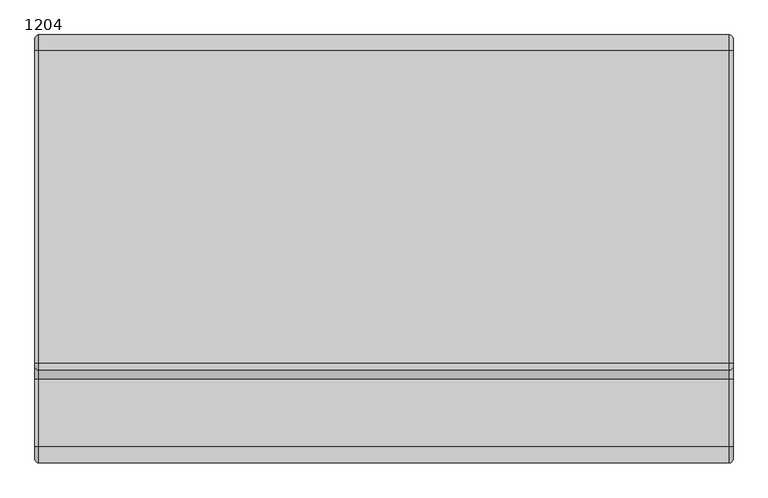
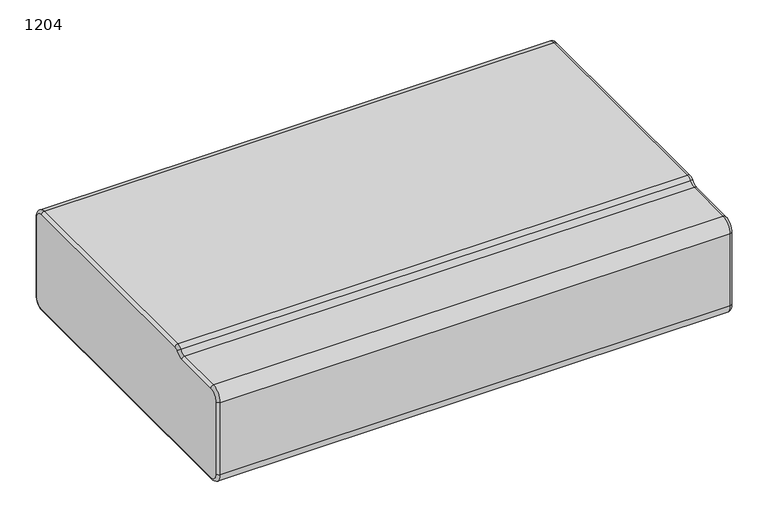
"""IFC4 building model written with IfcOpenShell, lengths in millimetres: furniture geometry, Laguna-Modular-Straight-ERG : 1204."""

from ifc_helpers import new_model, si_unit, point, frame, origin, place, context, project, spatial, polyline, circle_curve, ellipse_curve, trimmed, source, transform, mapped, element, save
from ifc_brep_helpers import plane_surface, cylinder_surface, revolved_surface, advanced_brep


def furniture_1204_49065b5f(model_context):
    return source(origin(), model_context, "Body", "AdvancedBrep", [
        advanced_brep(
        [(-3545.1421763, -1208.7558502, 209.55), (-3545.1421763, -573.755851, 209.55), (-3545.1421763, -554.7058502, 228.6), (-3545.1421763, -554.7058502, 406.4), (-3545.1421763, -573.7558502, 425.45), (-3545.1421763, -1074.6905694, 425.45), (-3545.1421763, -1081.0629451, 422.2976649), (-3545.1421763, -1100.3633388, 412.75), (-3545.1421763, -1208.7558502, 412.75), (-3545.1421763, -1227.8058502, 393.7), (-3545.1421763, -1227.8058502, 228.6), (-4662.7421763, -573.7558502, 209.55), (-4662.7421763, -1208.7558502, 209.55), (-4662.7421763, -1227.8058502, 228.6), (-4662.7421763, -1227.8058502, 393.7), (-4662.7421763, -1208.7558502, 412.75), (-4662.7421763, -1100.3633388, 412.75), (-4662.7421763, -1081.0629451, 422.2976649), (-4662.7421763, -1074.6905694, 425.45), (-4662.7421763, -573.7558502, 425.45), (-4662.7421763, -554.7058502, 406.4), (-4662.7421763, -554.7058502, 228.6), (-3551.4921763, -1234.1558502, 228.6), (-3551.4921763, -1208.7558502, 203.2), (-3551.4921763, -1234.1558502, 393.7), (-3551.4921763, -1208.7558502, 419.1), (-3551.4921763, -1100.3633388, 419.1), (-3551.4921763, -1086.1103079, 426.1507973), (-3551.4921763, -1074.6905694, 431.8), (-3551.4921763, -573.7558502, 431.8), (-3551.4921763, -548.3558502, 406.4), (-3551.4921763, -548.3558502, 228.6), (-3551.4921763, -573.7558502, 203.2), (-4656.3921763, -1208.7558502, 203.2), (-4656.3921763, -573.7558554, 203.2), (-4656.3921763, -1234.1558502, 228.6), (-4656.3921763, -1234.1558502, 393.7), (-4656.3921763, -1208.7558502, 419.1), (-4656.3921763, -1100.3633388, 419.1), (-4656.3921763, -1086.1103079, 426.1507973), (-4656.3921763, -1074.6905694, 431.8), (-4656.3921763, -573.7558502, 431.8), (-4656.3921763, -548.3558502, 406.4), (-4656.3921763, -548.3558502, 228.6)],
        [
            (0, 1),
            (1, 2, circle_curve(frame((-3545.1421763, -573.7558502, 228.6), z_axis=(1.0, 0.0, 0.0), x_axis=(0.0, 1.0, 0.0)), 19.05)),
            (2, 3),
            (3, 4, circle_curve(frame((-3545.1421763, -573.7558502, 406.4), z_axis=(1.0, 0.0, 0.0), x_axis=(0.0, 0.0, 1.0)), 19.05)),
            (4, 5),
            (5, 6, circle_curve(frame((-3545.1421763, -1074.6905694, 417.4330241), z_axis=(1.0, 0.0, 0.0), x_axis=(0.0, -0.7948602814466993, 0.6067924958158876)), 8.0169759)),
            (6, 7, circle_curve(frame((-3545.1421763, -1100.3633388, 437.0314921), z_axis=(-1.0, 0.0, 0.0), x_axis=(0.0, 0.0, -1.0)), 24.2814921)),
            (7, 8),
            (8, 9, circle_curve(frame((-3545.1421763, -1208.7558502, 393.7), z_axis=(1.0, 0.0, 0.0), x_axis=(0.0, -1.0, 0.0)), 19.05)),
            (9, 10),
            (10, 0, circle_curve(frame((-3545.1421763, -1208.7558502, 228.6), z_axis=(1.0, 0.0, 0.0), x_axis=(0.0, 0.0, -1.0)), 19.05)),
            (11, 12),
            (12, 13, circle_curve(frame((-4662.7421763, -1208.7558502, 228.6), z_axis=(-1.0, 0.0, 0.0), x_axis=(0.0, 0.0, -1.0)), 19.05)),
            (13, 14),
            (14, 15, circle_curve(frame((-4662.7421763, -1208.7558502, 393.7), z_axis=(-1.0, 0.0, 0.0), x_axis=(0.0, -1.0, 0.0)), 19.05)),
            (15, 16),
            (16, 17, circle_curve(frame((-4662.7421763, -1100.3633388, 437.0314921), z_axis=(1.0, 0.0, 0.0), x_axis=(0.0, 0.0, -1.0)), 24.2814921)),
            (17, 18, circle_curve(frame((-4662.7421763, -1074.6905694, 417.4330241), z_axis=(-1.0, 0.0, 0.0), x_axis=(0.0, -0.7948602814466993, 0.6067924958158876)), 8.0169759)),
            (18, 19),
            (19, 20, circle_curve(frame((-4662.7421763, -573.7558502, 406.4), z_axis=(-1.0, 0.0, 0.0), x_axis=(0.0, 0.0, 1.0)), 19.05)),
            (20, 21),
            (21, 11, circle_curve(frame((-4662.7421763, -573.7558502, 228.6), z_axis=(-1.0, 0.0, 0.0), x_axis=(0.0, 1.0, 0.0)), 19.05)),
            (10, 22, circle_curve(frame((-3551.4921763, -1227.8058502, 228.6), z_axis=(0.0, 0.0, -1.0), x_axis=(0.0, 1.0, 0.0)), 6.35)),
            (22, 23, circle_curve(frame((-3551.4921763, -1208.7558502, 228.6), z_axis=(1.0, 0.0, 0.0), x_axis=(0.0, 0.0, -1.0)), 25.4)),
            (23, 0, circle_curve(frame((-3551.4921763, -1208.7558502, 209.55), z_axis=(0.0, -1.0, 0.0), x_axis=(0.0, 0.0, 1.0)), 6.35)),
            (9, 24, circle_curve(frame((-3551.4921763, -1227.8058502, 393.7), z_axis=(0.0, 0.0, -1.0), x_axis=(0.0, 1.0, 0.0)), 6.35)),
            (24, 22),
            (8, 25, circle_curve(frame((-3551.4921763, -1208.7558502, 412.75), z_axis=(0.0, -1.0, 0.0), x_axis=(0.0, 0.0, -1.0)), 6.35)),
            (25, 24, circle_curve(frame((-3551.4921763, -1208.7558502, 393.7), z_axis=(1.0, 0.0, 0.0), x_axis=(0.0, -1.0, 0.0)), 25.4)),
            (7, 26, circle_curve(frame((-3551.4921763, -1100.3633388, 412.75), z_axis=(0.0, -1.0, 0.0), x_axis=(0.0, 0.0, -1.0)), 6.35)),
            (26, 25),
            (6, 27, circle_curve(frame((-3551.4921763, -1081.0629451, 422.2976649), z_axis=(0.0, -0.6067924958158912, -0.7948602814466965), x_axis=(0.0, 0.7948602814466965, -0.6067924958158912)), 6.35)),
            (27, 26, circle_curve(frame((-3551.4921763, -1100.3633388, 437.0314921), z_axis=(-1.0, 0.0, 0.0), x_axis=(0.0, 0.0, -1.0)), 17.9314921)),
            (5, 28, circle_curve(frame((-3551.4921763, -1074.6905694, 425.45), z_axis=(0.0, -1.0, 0.0), x_axis=(0.0, 0.0, -1.0)), 6.35)),
            (28, 27, circle_curve(frame((-3551.4921763, -1074.6905694, 417.4330241), z_axis=(1.0, 0.0, 0.0), x_axis=(0.0, -0.7948602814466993, 0.6067924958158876)), 14.3669759)),
            (4, 29, circle_curve(frame((-3551.4921763, -573.7558502, 425.45), z_axis=(0.0, -1.0, 0.0), x_axis=(0.0, 0.0, -1.0)), 6.35)),
            (29, 28),
            (3, 30, circle_curve(frame((-3551.4921763, -554.7058502, 406.4), z_axis=(0.0, 0.0, 1.0), x_axis=(0.0, -1.0, 0.0)), 6.35)),
            (30, 29, circle_curve(frame((-3551.4921763, -573.7558502, 406.4), z_axis=(1.0, 0.0, 0.0), x_axis=(0.0, 0.0, 1.0)), 25.4)),
            (2, 31, circle_curve(frame((-3551.4921763, -554.7058502, 228.6), z_axis=(0.0, 0.0, 1.0), x_axis=(0.0, -1.0, 0.0)), 6.35)),
            (31, 30),
            (1, 32, circle_curve(frame((-3551.4921763, -573.7558502, 209.55), z_axis=(0.0, 1.0, 0.0), x_axis=(0.0, 0.0, 1.0)), 6.35)),
            (32, 31, circle_curve(frame((-3551.4921763, -573.7558502, 228.6), z_axis=(1.0, 0.0, 0.0), x_axis=(0.0, 1.0, 0.0)), 25.4)),
            (23, 32),
            (23, 33),
            (33, 34),
            (34, 32),
            (22, 35),
            (35, 33, circle_curve(frame((-4656.3921763, -1208.7558502, 228.6), z_axis=(1.0, 0.0, 0.0), x_axis=(0.0, -1.0, 0.0)), 25.4)),
            (24, 36),
            (36, 35),
            (25, 37),
            (37, 36, circle_curve(frame((-4656.3921763, -1208.7558502, 393.7), z_axis=(1.0, 0.0, 0.0), x_axis=(0.0, -1.0, 0.0)), 25.4)),
            (26, 38),
            (38, 37),
            (27, 39),
            (39, 38, circle_curve(frame((-4656.3921763, -1100.3633388, 437.0314921), z_axis=(-1.0, 0.0, 0.0), x_axis=(0.0, -1.0, 0.0)), 17.9314921)),
            (28, 40),
            (40, 39, circle_curve(frame((-4656.3921763, -1074.6905694, 417.4330241), z_axis=(1.0, 0.0, 0.0), x_axis=(0.0, -1.0, 0.0)), 14.3669759)),
            (29, 41),
            (41, 40),
            (30, 42),
            (42, 41, circle_curve(frame((-4656.3921763, -573.7558502, 406.4), z_axis=(1.0, 0.0, 0.0), x_axis=(0.0, -1.0, 0.0)), 25.4)),
            (31, 43),
            (43, 42),
            (34, 43, circle_curve(frame((-4656.3921763, -573.7558502, 228.6), z_axis=(1.0, 0.0, 0.0), x_axis=(0.0, -1.0, 0.0)), 25.4)),
            (34, 11, circle_curve(frame((-4656.3921763, -573.7558502, 209.55), z_axis=(0.0, 1.0, 0.0), x_axis=(1.0, 0.0, 0.0)), 6.35)),
            (21, 43, circle_curve(frame((-4656.3921763, -554.7058502, 228.6), z_axis=(0.0, 0.0, -1.0), x_axis=(1.0, 0.0, 0.0)), 6.35)),
            (33, 12, circle_curve(frame((-4656.3921763, -1208.7558502, 209.55), z_axis=(0.0, 1.0, 0.0), x_axis=(1.0, 0.0, 0.0)), 6.35)),
            (35, 13, circle_curve(frame((-4656.3921763, -1227.8058502, 228.6), z_axis=(0.0, 0.0, -1.0), x_axis=(1.0, 0.0, 0.0)), 6.35)),
            (36, 14, circle_curve(frame((-4656.3921763, -1227.8058502, 393.7), z_axis=(0.0, 0.0, -1.0), x_axis=(1.0, 0.0, 0.0)), 6.35)),
            (37, 15, circle_curve(frame((-4656.3921763, -1208.7558502, 412.75), z_axis=(0.0, -1.0, 0.0), x_axis=(1.0, 0.0, 0.0)), 6.35)),
            (38, 16, circle_curve(frame((-4656.3921763, -1100.3633388, 412.75), z_axis=(0.0, -1.0, 0.0), x_axis=(1.0, 0.0, 0.0)), 6.35)),
            (39, 17, circle_curve(frame((-4656.3921763, -1081.0629451, 422.2976649), z_axis=(0.0, -0.6067924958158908, -0.7948602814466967), x_axis=(1.0, 0.0, 0.0)), 6.35)),
            (40, 18, circle_curve(frame((-4656.3921763, -1074.6905694, 425.45), z_axis=(0.0, -1.0, 0.0), x_axis=(1.0, 0.0, 0.0)), 6.35)),
            (41, 19, circle_curve(frame((-4656.3921763, -573.7558502, 425.45), z_axis=(0.0, -1.0, 0.0), x_axis=(1.0, 0.0, 0.0)), 6.35)),
            (42, 20, circle_curve(frame((-4656.3921763, -554.7058502, 406.4), z_axis=(0.0, 0.0, 1.0), x_axis=(1.0, 0.0, 0.0)), 6.35)),
        ],
        [
            plane_surface(frame((-3545.1421763, -1208.7558502, 209.55), z_axis=(1.0, 0.0, 0.0), x_axis=(0.0, -1.0, 0.0))),
            plane_surface(frame((-4662.7421763, -587.7103097, 425.45), z_axis=(-1.0, 0.0, 0.0), x_axis=(0.0, -1.0, 0.0))),
            revolved_surface(trimmed(ellipse_curve(frame((-3551.4921763, -1208.7558502, 209.55), z_axis=(0.0, -1.0, 0.0), x_axis=(0.0, 0.0, 1.0)), 6.35, 6.35), [point((-3551.4921763, -1208.7558502, 203.2))], [point((-3545.1421763, -1208.7558502, 209.55))], True, "CARTESIAN"), (-3551.4921763, -1208.7558502, 228.6), (1.0, 0.0, 0.0)),
            cylinder_surface(frame((-3551.4921763, -1227.8058502, 228.6), z_axis=(0.0, 0.0, -1.0), x_axis=(0.0, 1.0, 0.0)), 6.35),
            revolved_surface(trimmed(ellipse_curve(frame((-3551.4921763, -1227.8058502, 393.7), z_axis=(0.0, 0.0, 1.0), x_axis=(0.0, 1.0, 0.0)), 6.35, 6.35), [point((-3551.4921763, -1234.1558502, 393.7))], [point((-3545.1421763, -1227.8058502, 393.7))], True, "CARTESIAN"), (-3551.4921763, -1208.7558502, 393.7), (1.0, 0.0, 0.0)),
            cylinder_surface(frame((-3551.4921763, -1208.7558502, 412.75), z_axis=(0.0, -1.0, 0.0), x_axis=(0.0, 0.0, -1.0)), 6.35),
            revolved_surface(trimmed(ellipse_curve(frame((-3551.4921763, -1100.3633388, 412.75), z_axis=(0.0, 1.0, 0.0), x_axis=(0.0, 0.0, -1.0)), 6.35, 6.35), [point((-3551.4921763, -1100.3633388, 419.1))], [point((-3545.1421763, -1100.3633388, 412.75))], True, "CARTESIAN"), (-3551.4921763, -1100.3633388, 437.0314921), (-1.0, 0.0, 0.0)),
            revolved_surface(trimmed(ellipse_curve(frame((-3551.4921763, -1081.0629451, 422.2976649), z_axis=(0.0, 0.6067924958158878, 0.7948602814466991), x_axis=(0.0, 0.7948602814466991, -0.6067924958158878)), 6.35, 6.35), [point((-3551.4921763, -1086.1103079, 426.1507973))], [point((-3545.1421763, -1081.0629451, 422.2976649))], True, "CARTESIAN"), (-3551.4921763, -1074.6905694, 417.4330241), (1.0, 0.0, 0.0)),
            cylinder_surface(frame((-3551.4921763, -1074.6905694, 425.45), z_axis=(0.0, -1.0, 0.0), x_axis=(0.0, 0.0, -1.0)), 6.35),
            revolved_surface(trimmed(ellipse_curve(frame((-3551.4921763, -573.7558502, 425.45), z_axis=(0.0, 1.0, 0.0), x_axis=(0.0, 0.0, -1.0)), 6.35, 6.35), [point((-3551.4921763, -573.7558502, 431.8))], [point((-3545.1421763, -573.7558502, 425.45))], True, "CARTESIAN"), (-3551.4921763, -573.7558502, 406.4), (1.0, 0.0, 0.0)),
            cylinder_surface(frame((-3551.4921763, -554.7058502, 406.4), z_axis=(0.0, 0.0, 1.0), x_axis=(0.0, -1.0, 0.0)), 6.35),
            revolved_surface(trimmed(ellipse_curve(frame((-3551.4921763, -554.7058502, 228.6), z_axis=(0.0, 0.0, -1.0), x_axis=(0.0, -1.0, 0.0)), 6.35, 6.35), [point((-3551.4921763, -548.3558502, 228.6))], [point((-3545.1421763, -554.7058502, 228.6))], True, "CARTESIAN"), (-3551.4921763, -573.7558502, 228.6), (1.0, 0.0, 0.0)),
            cylinder_surface(frame((-3551.4921763, -573.7558502, 209.55), z_axis=(0.0, 1.0, 0.0), x_axis=(0.0, 0.0, 1.0)), 6.35),
            plane_surface(frame((-3551.4921763, -573.7558502, 203.2), z_axis=(0.0, 0.0, -1.0), x_axis=(-1.0, 0.0, 0.0))),
            cylinder_surface(frame((-4656.3921763, -1208.7558502, 228.6), z_axis=(1.0, 0.0, 0.0), x_axis=(0.0, -1.0, 0.0)), 25.4),
            plane_surface(frame((-3551.4921763, -1234.1558502, 228.6), z_axis=(0.0, -1.0, 0.0), x_axis=(-1.0, 0.0, 0.0))),
            cylinder_surface(frame((-4656.3921763, -1208.7558502, 393.7), z_axis=(1.0, 0.0, 0.0), x_axis=(0.0, -1.0, 0.0)), 25.4),
            plane_surface(frame((-3551.4921763, -1208.7558502, 419.1), z_axis=(0.0, 0.0, 1.0), x_axis=(-1.0, 0.0, 0.0))),
            revolved_surface(polyline([(-4656.3921763, -1118.2948309, 437.0314921), (-3551.4921763, -1118.2948309, 437.0314921)]), (-4656.3921763, -1100.3633388, 437.0314921), (-1.0, 0.0, 0.0)),
            cylinder_surface(frame((-4656.3921763, -1074.6905694, 417.4330241), z_axis=(1.0, 0.0, 0.0), x_axis=(0.0, -1.0, 0.0)), 14.3669759),
            plane_surface(frame((-3551.4921763, -1074.6905694, 431.8), z_axis=(0.0, 0.0, 1.0), x_axis=(-1.0, 0.0, 0.0))),
            cylinder_surface(frame((-4656.3921763, -573.7558502, 406.4), z_axis=(1.0, 0.0, 0.0), x_axis=(0.0, -1.0, 0.0)), 25.4),
            plane_surface(frame((-3551.4921763, -548.3558502, 406.4), z_axis=(0.0, 1.0, 0.0), x_axis=(-1.0, 0.0, 0.0))),
            cylinder_surface(frame((-4656.3921763, -573.7558502, 228.6), z_axis=(1.0, 0.0, 0.0), x_axis=(0.0, -1.0, 0.0)), 25.4),
            revolved_surface(trimmed(ellipse_curve(frame((-4656.3921763, -554.7058502, 228.6), z_axis=(0.0, 0.0, -1.0), x_axis=(1.0, 0.0, 0.0)), 6.35, 6.35), [point((-4662.7421763, -554.7058502, 228.6))], [point((-4656.3921763, -548.3558502, 228.6))], True, "CARTESIAN"), (-4656.3921763, -573.7558502, 228.6), (1.0, 0.0, 0.0)),
            cylinder_surface(frame((-4656.3921763, -573.7558502, 209.55), z_axis=(0.0, 1.0, 0.0), x_axis=(1.0, 0.0, 0.0)), 6.35),
            revolved_surface(trimmed(ellipse_curve(frame((-4656.3921763, -1208.7558502, 209.55), z_axis=(0.0, -1.0, 0.0), x_axis=(1.0, 0.0, 0.0)), 6.35, 6.35), [point((-4662.7421763, -1208.7558502, 209.55))], [point((-4656.3921763, -1208.7558502, 203.2))], True, "CARTESIAN"), (-4656.3921763, -1208.7558502, 228.6), (1.0, 0.0, 0.0)),
            cylinder_surface(frame((-4656.3921763, -1227.8058502, 228.6), z_axis=(0.0, 0.0, -1.0), x_axis=(1.0, 0.0, 0.0)), 6.35),
            revolved_surface(trimmed(ellipse_curve(frame((-4656.3921763, -1227.8058502, 393.7), z_axis=(0.0, 0.0, 1.0), x_axis=(1.0, 0.0, 0.0)), 6.35, 6.35), [point((-4662.7421763, -1227.8058502, 393.7))], [point((-4656.3921763, -1234.1558502, 393.7))], True, "CARTESIAN"), (-4656.3921763, -1208.7558502, 393.7), (1.0, 0.0, 0.0)),
            cylinder_surface(frame((-4656.3921763, -1208.7558502, 412.75), z_axis=(0.0, -1.0, 0.0), x_axis=(1.0, 0.0, 0.0)), 6.35),
            revolved_surface(trimmed(ellipse_curve(frame((-4656.3921763, -1100.3633388, 412.75), z_axis=(0.0, 1.0, 0.0), x_axis=(1.0, 0.0, 0.0)), 6.35, 6.35), [point((-4662.7421763, -1100.3633388, 412.75))], [point((-4656.3921763, -1100.3633388, 419.1))], True, "CARTESIAN"), (-4656.3921763, -1100.3633388, 437.0314921), (-1.0, 0.0, 0.0)),
            revolved_surface(trimmed(ellipse_curve(frame((-4656.3921763, -1081.0629451, 422.2976649), z_axis=(0.0, 0.6067924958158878, 0.7948602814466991), x_axis=(1.0, 0.0, 0.0)), 6.35, 6.35), [point((-4662.7421763, -1081.0629451, 422.2976649))], [point((-4656.3921763, -1086.1103079, 426.1507973))], True, "CARTESIAN"), (-4656.3921763, -1074.6905694, 417.4330241), (1.0, 0.0, 0.0)),
            cylinder_surface(frame((-4656.3921763, -1074.6905694, 425.45), z_axis=(0.0, -1.0, 0.0), x_axis=(1.0, 0.0, 0.0)), 6.35),
            revolved_surface(trimmed(ellipse_curve(frame((-4656.3921763, -573.7558502, 425.45), z_axis=(0.0, 1.0, 0.0), x_axis=(1.0, 0.0, 0.0)), 6.35, 6.35), [point((-4662.7421763, -573.7558502, 425.45))], [point((-4656.3921763, -573.7558502, 431.8))], True, "CARTESIAN"), (-4656.3921763, -573.7558502, 406.4), (1.0, 0.0, 0.0)),
            cylinder_surface(frame((-4656.3921763, -554.7058502, 406.4), z_axis=(0.0, 0.0, 1.0), x_axis=(1.0, 0.0, 0.0)), 6.35),
        ],
        [
            (0, [[1, 2, 3, 4, 5, 6, 7, 8, 9, 10, 11]]),
            (1, [[12, 13, 14, 15, 16, 17, 18, 19, 20, 21, 22]]),
            (2, [[-11, 23, 24, 25]]),
            (3, [[-10, 26, 27, -23]]),
            (4, [[-9, 28, 29, -26]]),
            (5, [[-8, 30, 31, -28]]),
            (6, [[-7, 32, 33, -30]]),
            (7, [[-6, 34, 35, -32]]),
            (8, [[-5, 36, 37, -34]]),
            (9, [[-4, 38, 39, -36]]),
            (10, [[-3, 40, 41, -38]]),
            (11, [[-2, 42, 43, -40]]),
            (12, [[44, -42, -1, -25]]),
            (13, [[-44, 45, 46, 47]]),
            (14, [[-24, 48, 49, -45]]),
            (15, [[-27, 50, 51, -48]]),
            (16, [[-29, 52, 53, -50]]),
            (17, [[-31, 54, 55, -52]]),
            (18, [[-33, 56, 57, -54]]),
            (19, [[-35, 58, 59, -56]]),
            (20, [[-37, 60, 61, -58]]),
            (21, [[-39, 62, 63, -60]]),
            (22, [[-41, 64, 65, -62]]),
            (23, [[66, -64, -43, -47]]),
            (24, [[-66, 67, -22, 68]]),
            (25, [[-46, 69, -12, -67]]),
            (26, [[-49, 70, -13, -69]]),
            (27, [[-51, 71, -14, -70]]),
            (28, [[-53, 72, -15, -71]]),
            (29, [[-55, 73, -16, -72]]),
            (30, [[-57, 74, -17, -73]]),
            (31, [[-59, 75, -18, -74]]),
            (32, [[-61, 76, -19, -75]]),
            (33, [[-63, 77, -20, -76]]),
            (34, [[-21, -77, -65, -68]]),
        ],
    ),
    ])


if __name__ == "__main__":
    model = new_model("IFC4")
    model_context = context("Model", 3, world=origin())
    ifc_project = project(units=[si_unit("LENGTHUNIT", "METRE", prefix="MILLI")], contexts=[model_context])
    site = spatial("IfcSite", under=ifc_project)
    building = spatial("IfcBuilding", under=site)
    placement = place(None, origin())
    furniture_1204_shape = furniture_1204_49065b5f(model_context)
    element("IfcFurniture", 1, ObjectType="Laguna-Modular-Straight-ERG : 1204", at=placement, inside=building, context=model_context, shape_type="MappedRepresentation", body=[
        mapped(furniture_1204_shape, transform((0.0, 0.0, 0.0), x_axis=(1.0, 0.0, 0.0), y_axis=(0.0, 1.0, 0.0), z_axis=(0.0, 0.0, 1.0))),
    ])
    save(model, "model.ifc")
